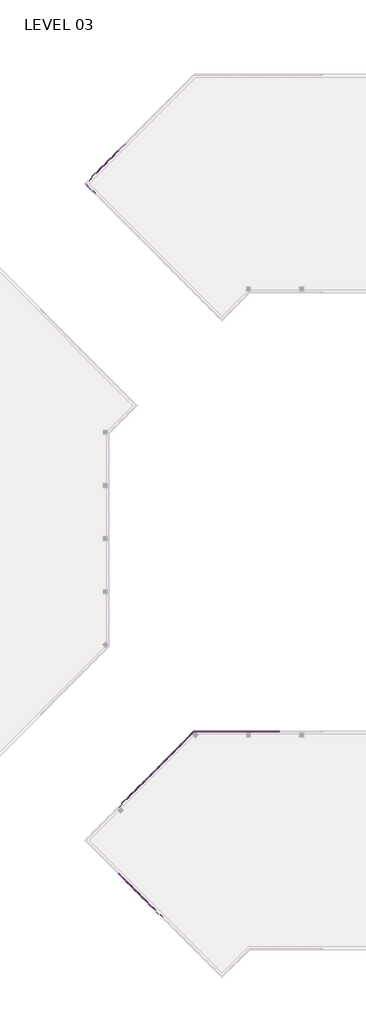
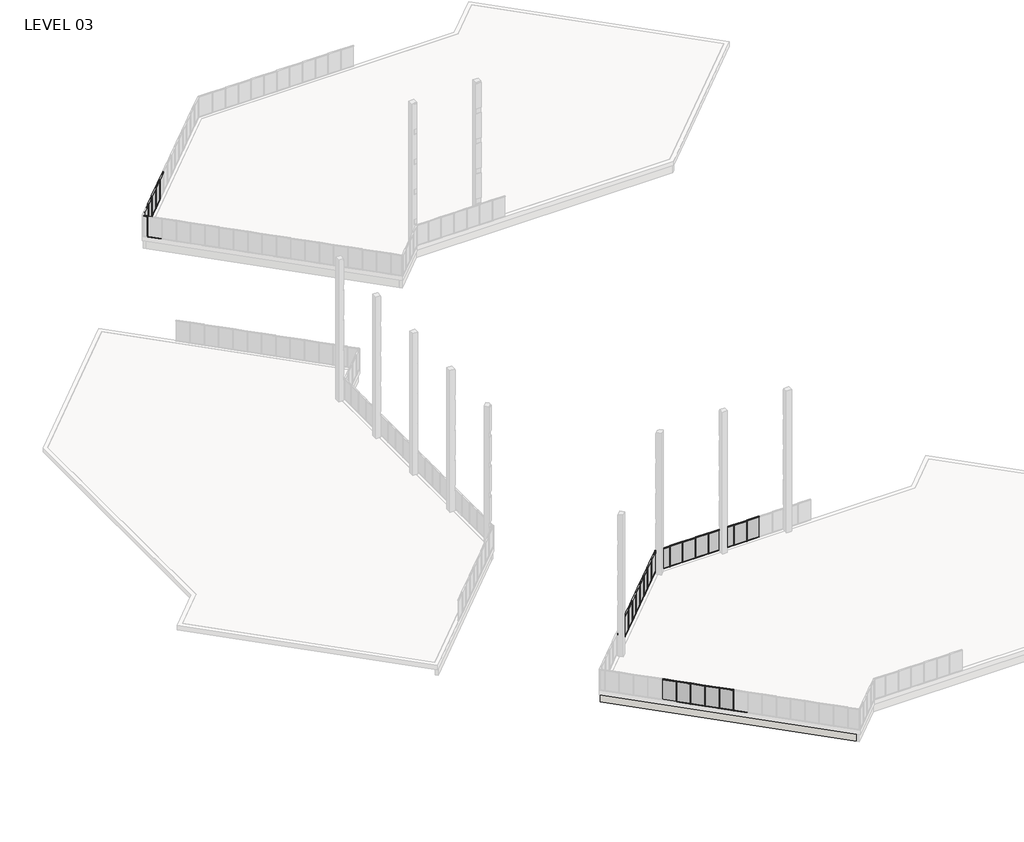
# One storey, part 7 of 18: 83 members, 27 plates, 2 walls.
"""IFC4 building model written with IfcOpenShell, lengths in millimetres."""

from ifc_helpers import new_model, si_unit, origin, place, context, project, spatial, faceted_brep, transform, mapped, element, save
from components import member_5247f267, member_e44af9ab, member_800970d4, member_1bd862b2, member_7ca0f77f, member_25b26a38, member_ed9c17d6, plate_67294edd, plate_048e4634, plate_aaac5d3d, plate_bbcbcabf, plate_e0fd5134, plate_db5d6751, plate_62af1d3c, plate_dca6a18a

model = new_model("IFC4")

# Units and contexts
model_context = context("Model", 3, world=origin())
ifc_project = project(units=[si_unit("LENGTHUNIT", "METRE", prefix="MILLI")], contexts=[model_context])

# Site, building, storey
site = spatial("IfcSite", under=ifc_project)
building = spatial("IfcBuilding", under=site)
storey = spatial("IfcBuildingStorey", under=building, Name="LEVEL 03", Elevation=8280.4)

# Members
placement = place(None, origin())
member_shape = member_5247f267(model_context)
element("IfcMember", 1, ObjectType="Rectangular Mullion : 2\" x 4.5\" rectangular", at=placement, inside=storey, context=model_context, shape_type="MappedRepresentation", body=[
    mapped(member_shape, transform((21469.35, 26080.1328721, 8280.4), x_axis=(0.0, 0.0, -1.0), y_axis=(0.0, -1.0, 0.0), z_axis=(-1.0, 0.0, 0.0))),
])
element("IfcMember", 2, ObjectType="Rectangular Mullion : 2\" x 4.5\" rectangular", at=placement, inside=storey, context=model_context, shape_type="MappedRepresentation", body=[
    mapped(member_shape, transform((8320.1332875, 23790.0222953, 8280.4), x_axis=(0.0, 0.0, -1.0), y_axis=(-0.7071067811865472, 0.7071067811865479, 0.0), z_axis=(0.7071067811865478, 0.7071067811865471, 0.0))),
])
element("IfcMember", 3, ObjectType="Rectangular Mullion : 2\" x 4.5\" rectangular", at=placement, inside=storey, context=model_context, shape_type="MappedRepresentation", body=[
    mapped(member_shape, transform((7242.502553, 22712.3915608, 8280.4), x_axis=(0.0, 0.0, -1.0), y_axis=(-0.7071067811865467, 0.7071067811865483, 0.0), z_axis=(0.7071067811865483, 0.7071067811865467, 0.0))),
])
element("IfcMember", 4, ObjectType="Rectangular Mullion : 2\" x 4.5\" rectangular", at=placement, inside=storey, context=model_context, shape_type="MappedRepresentation", body=[
    mapped(member_shape, transform((6164.8718185, 21634.7608262, 8280.4), x_axis=(0.0, 0.0, -1.0), y_axis=(-0.7071067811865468, 0.7071067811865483, 0.0), z_axis=(0.7071067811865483, 0.7071067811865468, 0.0))),
])
element("IfcMember", 5, ObjectType="Rectangular Mullion : 2\" x 4.5\" rectangular", at=placement, inside=storey, context=model_context, shape_type="MappedRepresentation", body=[
    mapped(member_shape, transform((4009.6251512, 19479.5141589, 8280.4), x_axis=(0.0, 0.0, -1.0), y_axis=(-0.707106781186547, 0.7071067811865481, 0.0), z_axis=(0.7071067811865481, 0.707106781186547, 0.0))),
])
element("IfcMember", 6, ObjectType="Rectangular Mullion : 2\" x 4.5\" rectangular", at=placement, inside=storey, context=model_context, shape_type="MappedRepresentation", body=[
    mapped(member_shape, transform((2932.0092184, 18401.8982261, 8280.4), x_axis=(0.0, 0.0, -1.0), y_axis=(-0.7071067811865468, 0.7071067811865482, 0.0), z_axis=(0.7071067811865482, 0.7071067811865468, 0.0))),
])
element("IfcMember", 7, ObjectType="Rectangular Mullion : 2\" x 4.5\" rectangular", at=placement, inside=storey, context=model_context, shape_type="MappedRepresentation", body=[
    mapped(member_shape, transform((1854.3932855, 17324.2822933, 8280.4), x_axis=(0.0, 0.0, -1.0), y_axis=(-0.7071067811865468, 0.7071067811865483, 0.0), z_axis=(0.7071067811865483, 0.7071067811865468, 0.0))),
])
element("IfcMember", 8, ObjectType="Rectangular Mullion : 2\" x 4.5\" rectangular", at=placement, inside=storey, context=model_context, shape_type="MappedRepresentation", body=[
    mapped(member_shape, transform((776.7773527, 16246.6663605, 8280.4), x_axis=(0.0, 0.0, -1.0), y_axis=(-0.7071067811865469, 0.7071067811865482, 0.0), z_axis=(0.7071067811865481, 0.7071067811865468, 0.0))),
])
element("IfcMember", 9, ObjectType="Rectangular Mullion : 2\" x 4.5\" rectangular", at=placement, inside=storey, context=model_context, shape_type="MappedRepresentation", body=[
    mapped(member_shape, transform((812.6774444, 4705.5492921, 8280.4), x_axis=(0.0, 0.0, -1.0), y_axis=(-0.707106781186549, -0.7071067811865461, 0.0), z_axis=(-0.7071067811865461, 0.707106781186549, 0.0))),
])
element("IfcMember", 10, ObjectType="Rectangular Mullion : 2\" x 4.5\" rectangular", at=placement, inside=storey, context=model_context, shape_type="MappedRepresentation", body=[
    mapped(member_shape, transform((1890.2724444, 3627.9542921, 8280.4), x_axis=(0.0, 0.0, -1.0), y_axis=(-0.7071067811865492, -0.7071067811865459, 0.0), z_axis=(-0.7071067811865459, 0.7071067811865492, 0.0))),
])
element("IfcMember", 11, ObjectType="Rectangular Mullion : 2\" x 4.5\" rectangular", at=placement, inside=storey, context=model_context, shape_type="MappedRepresentation", body=[
    mapped(member_shape, transform((2967.8674444, 2550.3592921, 8280.4), x_axis=(0.0, 0.0, -1.0), y_axis=(-0.707106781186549, -0.707106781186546, 0.0), z_axis=(-0.707106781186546, 0.707106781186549, 0.0))),
])
element("IfcMember", 12, ObjectType="Rectangular Mullion : 2\" x 4.5\" rectangular", at=placement, inside=storey, context=model_context, shape_type="MappedRepresentation", body=[
    mapped(member_shape, transform((19945.35, 26080.1328721, 8280.4), x_axis=(0.0, 0.0, -1.0), y_axis=(0.0, -1.0, 0.0), z_axis=(-1.0, 0.0, 0.0))),
])
element("IfcMember", 13, ObjectType="Rectangular Mullion : 2\" x 4.5\" rectangular", at=placement, inside=storey, context=model_context, shape_type="MappedRepresentation", body=[
    mapped(member_shape, transform((18421.35, 26080.1328721, 8280.4), x_axis=(0.0, 0.0, -1.0), y_axis=(0.0, -1.0, 0.0), z_axis=(-1.0, 0.0, 0.0))),
])
element("IfcMember", 14, ObjectType="Rectangular Mullion : 2\" x 4.5\" rectangular", at=placement, inside=storey, context=model_context, shape_type="MappedRepresentation", body=[
    mapped(member_shape, transform((16897.35, 26080.1328721, 8280.4), x_axis=(0.0, 0.0, -1.0), y_axis=(0.0, -1.0, 0.0), z_axis=(-1.0, 0.0, 0.0))),
])
element("IfcMember", 15, ObjectType="Rectangular Mullion : 2\" x 4.5\" rectangular", at=placement, inside=storey, context=model_context, shape_type="MappedRepresentation", body=[
    mapped(member_shape, transform((15373.35, 26080.1328721, 8280.4), x_axis=(0.0, 0.0, -1.0), y_axis=(0.0, -1.0, 0.0), z_axis=(-1.0, 0.0, 0.0))),
])
element("IfcMember", 16, ObjectType="Rectangular Mullion : 2\" x 4.5\" rectangular", at=placement, inside=storey, context=model_context, shape_type="MappedRepresentation", body=[
    mapped(member_shape, transform((13849.35, 26080.1328721, 8280.4), x_axis=(0.0, 0.0, -1.0), y_axis=(0.0, -1.0, 0.0), z_axis=(-1.0, 0.0, 0.0))),
])
element("IfcMember", 17, ObjectType="Rectangular Mullion : 2\" x 4.5\" rectangular", at=placement, inside=storey, context=model_context, shape_type="MappedRepresentation", body=[
    mapped(member_shape, transform((12325.35, 26080.1328721, 8280.4), x_axis=(0.0, 0.0, -1.0), y_axis=(0.0, -1.0, 0.0), z_axis=(-1.0, 0.0, 0.0))),
])
element("IfcMember", 18, ObjectType="Rectangular Mullion : 2\" x 4.5\" rectangular", at=placement, inside=storey, context=model_context, shape_type="MappedRepresentation", body=[
    mapped(member_shape, transform((9397.7640221, 24867.6530298, 8280.4), x_axis=(0.0, 0.0, -1.0), y_axis=(-0.7071067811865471, 0.7071067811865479, 0.0), z_axis=(0.7071067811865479, 0.7071067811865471, 0.0))),
])
element("IfcMember", 19, ObjectType="Rectangular Mullion : 2\" x 4.5\" rectangular", at=placement, inside=storey, context=model_context, shape_type="MappedRepresentation", body=[
    mapped(member_shape, transform((5087.2484848, 20557.1374926, 8280.4), x_axis=(0.0, 0.0, -1.0), y_axis=(-0.7071067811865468, 0.7071067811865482, 0.0), z_axis=(0.7071067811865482, 0.7071067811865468, 0.0))),
])
element("IfcMember", 20, ObjectType="Rectangular Mullion : 2\" x 4.5\" rectangular", at=placement, inside=storey, context=model_context, shape_type="MappedRepresentation", body=[
    mapped(member_shape, transform((-3533.9094563, 105983.7989843, 8280.4), x_axis=(0.0, 0.0, -1.0), y_axis=(-0.7071067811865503, 0.7071067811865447, 0.0), z_axis=(0.7071067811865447, 0.7071067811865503, 0.0))),
])
element("IfcMember", 21, ObjectType="Rectangular Mullion : 2\" x 4.5\" rectangular", at=placement, inside=storey, context=model_context, shape_type="MappedRepresentation", body=[
    mapped(member_shape, transform((-301.0172527, 109216.6911879, 8280.4), x_axis=(0.0, 0.0, -1.0), y_axis=(-0.7071067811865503, 0.7071067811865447, 0.0), z_axis=(0.7071067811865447, 0.7071067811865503, 0.0))),
])
element("IfcMember", 22, ObjectType="Rectangular Mullion : 2\" x 4.5\" rectangular", at=placement, inside=storey, context=model_context, shape_type="MappedRepresentation", body=[
    mapped(member_shape, transform((-1378.6479872, 108139.0604533, 8280.4), x_axis=(0.0, 0.0, -1.0), y_axis=(-0.7071067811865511, 0.707106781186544, 0.0), z_axis=(0.707106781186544, 0.7071067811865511, 0.0))),
])
element("IfcMember", 23, ObjectType="Rectangular Mullion : 2\" x 4.5\" rectangular", at=placement, inside=storey, context=model_context, shape_type="MappedRepresentation", body=[
    mapped(member_shape, transform((-2456.2787218, 107061.4297188, 8280.4), x_axis=(0.0, 0.0, -1.0), y_axis=(-0.7071067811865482, 0.7071067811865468, 0.0), z_axis=(0.7071067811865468, 0.7071067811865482, 0.0))),
])
element("IfcMember", 24, ObjectType="Rectangular Mullion : 2\" x 4.5\" rectangular", at=placement, inside=storey, context=model_context, shape_type="MappedRepresentation", body=[
    mapped(member_shape, transform((-4575.4404937, 104141.486663, 8280.4), x_axis=(0.0, 0.0, -1.0), y_axis=(-0.7071067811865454, -0.7071067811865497, 0.0), z_axis=(-0.7071067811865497, 0.7071067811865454, 0.0))),
])
element("IfcMember", 25, ObjectType="Rectangular Mullion : 2\" x 4.5\" rectangular", at=placement, inside=storey, context=model_context, shape_type="MappedRepresentation", body=[
    mapped(member_shape, transform((21418.55, 26080.1328721, 10871.2), x_axis=(0.0, 0.0, 1.0), y_axis=(0.0, -1.0, 0.0), z_axis=(1.0, 0.0, 0.0))),
])
element("IfcMember", 26, ObjectType="Rectangular Mullion : 2\" x 4.5\" rectangular", at=placement, inside=storey, context=model_context, shape_type="MappedRepresentation", body=[
    mapped(member_shape, transform((22942.55, 26080.1328721, 10871.2), x_axis=(0.0, 0.0, 1.0), y_axis=(0.0, -1.0, 0.0), z_axis=(1.0, 0.0, 0.0))),
])
element("IfcMember", 27, ObjectType="Rectangular Mullion : 2\" x 4.5\" rectangular", at=placement, inside=storey, context=model_context, shape_type="MappedRepresentation", body=[
    mapped(member_shape, transform((8356.054312, 23825.9433198, 10871.2), x_axis=(0.0, 0.0, 1.0), y_axis=(-0.7071067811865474, 0.7071067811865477, 0.0), z_axis=(-0.7071067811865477, -0.7071067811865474, 0.0))),
])
element("IfcMember", 28, ObjectType="Rectangular Mullion : 2\" x 4.5\" rectangular", at=placement, inside=storey, context=model_context, shape_type="MappedRepresentation", body=[
    mapped(member_shape, transform((7278.4235775, 22748.3125852, 10871.2), x_axis=(0.0, 0.0, 1.0), y_axis=(-0.7071067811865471, 0.7071067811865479, 0.0), z_axis=(-0.7071067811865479, -0.7071067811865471, 0.0))),
])
element("IfcMember", 29, ObjectType="Rectangular Mullion : 2\" x 4.5\" rectangular", at=placement, inside=storey, context=model_context, shape_type="MappedRepresentation", body=[
    mapped(member_shape, transform((6200.792843, 21670.6818507, 10871.2), x_axis=(0.0, 0.0, 1.0), y_axis=(-0.7071067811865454, 0.7071067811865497, 0.0), z_axis=(-0.7071067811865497, -0.7071067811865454, 0.0))),
])
element("IfcMember", 30, ObjectType="Rectangular Mullion : 2\" x 4.5\" rectangular", at=placement, inside=storey, context=model_context, shape_type="MappedRepresentation", body=[
    mapped(member_shape, transform((4045.5461756, 19515.4351834, 10871.2), x_axis=(0.0, 0.0, 1.0), y_axis=(-0.7071067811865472, 0.7071067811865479, 0.0), z_axis=(-0.7071067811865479, -0.7071067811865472, 0.0))),
])
element("IfcMember", 31, ObjectType="Rectangular Mullion : 2\" x 4.5\" rectangular", at=placement, inside=storey, context=model_context, shape_type="MappedRepresentation", body=[
    mapped(member_shape, transform((2967.9302428, 18437.8192506, 10871.2), x_axis=(0.0, 0.0, 1.0), y_axis=(-0.7071067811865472, 0.7071067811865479, 0.0), z_axis=(-0.7071067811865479, -0.7071067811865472, 0.0))),
])
element("IfcMember", 32, ObjectType="Rectangular Mullion : 2\" x 4.5\" rectangular", at=placement, inside=storey, context=model_context, shape_type="MappedRepresentation", body=[
    mapped(member_shape, transform((1890.31431, 17360.2033178, 10871.2), x_axis=(0.0, 0.0, 1.0), y_axis=(-0.7071067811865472, 0.7071067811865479, 0.0), z_axis=(-0.7071067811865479, -0.7071067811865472, 0.0))),
])
element("IfcMember", 33, ObjectType="Rectangular Mullion : 2\" x 4.5\" rectangular", at=placement, inside=storey, context=model_context, shape_type="MappedRepresentation", body=[
    mapped(member_shape, transform((812.6983772, 16282.587385, 10871.2), x_axis=(0.0, 0.0, 1.0), y_axis=(-0.7071067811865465, 0.7071067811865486, 0.0), z_axis=(-0.7071067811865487, -0.7071067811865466, 0.0))),
])
element("IfcMember", 34, ObjectType="Rectangular Mullion : 2\" x 4.5\" rectangular", at=placement, inside=storey, context=model_context, shape_type="MappedRepresentation", body=[
    mapped(member_shape, transform((776.7564199, 4741.4703165, 10871.2), x_axis=(0.0, 0.0, 1.0), y_axis=(-0.7071067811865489, -0.7071067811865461, 0.0), z_axis=(0.7071067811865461, -0.7071067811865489, 0.0))),
])
element("IfcMember", 35, ObjectType="Rectangular Mullion : 2\" x 4.5\" rectangular", at=placement, inside=storey, context=model_context, shape_type="MappedRepresentation", body=[
    mapped(member_shape, transform((1854.3514199, 3663.8753165, 10871.2), x_axis=(0.0, 0.0, 1.0), y_axis=(-0.7071067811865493, -0.7071067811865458, 0.0), z_axis=(0.7071067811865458, -0.7071067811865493, 0.0))),
])
element("IfcMember", 36, ObjectType="Rectangular Mullion : 2\" x 4.5\" rectangular", at=placement, inside=storey, context=model_context, shape_type="MappedRepresentation", body=[
    mapped(member_shape, transform((2931.9464199, 2586.2803165, 10871.2), x_axis=(0.0, 0.0, 1.0), y_axis=(-0.7071067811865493, -0.7071067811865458, 0.0), z_axis=(0.7071067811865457, -0.7071067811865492, 0.0))),
])
element("IfcMember", 37, ObjectType="Rectangular Mullion : 2\" x 4.5\" rectangular", at=placement, inside=storey, context=model_context, shape_type="MappedRepresentation", body=[
    mapped(member_shape, transform((4009.5414199, 1508.6853165, 10871.2), x_axis=(0.0, 0.0, 1.0), y_axis=(-0.7071067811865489, -0.7071067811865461, 0.0), z_axis=(0.7071067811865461, -0.7071067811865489, 0.0))),
])
element("IfcMember", 38, ObjectType="Rectangular Mullion : 2\" x 4.5\" rectangular", at=placement, inside=storey, context=model_context, shape_type="MappedRepresentation", body=[
    mapped(member_shape, transform((19894.55, 26080.1328721, 10871.2), x_axis=(0.0, 0.0, 1.0), y_axis=(0.0, -1.0, 0.0), z_axis=(1.0, 0.0, 0.0))),
])
element("IfcMember", 39, ObjectType="Rectangular Mullion : 2\" x 4.5\" rectangular", at=placement, inside=storey, context=model_context, shape_type="MappedRepresentation", body=[
    mapped(member_shape, transform((18370.55, 26080.1328721, 10871.2), x_axis=(0.0, 0.0, 1.0), y_axis=(0.0, -1.0, 0.0), z_axis=(1.0, 0.0, 0.0))),
])
element("IfcMember", 40, ObjectType="Rectangular Mullion : 2\" x 4.5\" rectangular", at=placement, inside=storey, context=model_context, shape_type="MappedRepresentation", body=[
    mapped(member_shape, transform((16846.55, 26080.1328721, 10871.2), x_axis=(0.0, 0.0, 1.0), y_axis=(0.0, -1.0, 0.0), z_axis=(1.0, 0.0, 0.0))),
])
element("IfcMember", 41, ObjectType="Rectangular Mullion : 2\" x 4.5\" rectangular", at=placement, inside=storey, context=model_context, shape_type="MappedRepresentation", body=[
    mapped(member_shape, transform((15322.55, 26080.1328721, 10871.2), x_axis=(0.0, 0.0, 1.0), y_axis=(0.0, -1.0, 0.0), z_axis=(1.0, 0.0, 0.0))),
])
element("IfcMember", 42, ObjectType="Rectangular Mullion : 2\" x 4.5\" rectangular", at=placement, inside=storey, context=model_context, shape_type="MappedRepresentation", body=[
    mapped(member_shape, transform((13798.55, 26080.1328721, 10871.2), x_axis=(0.0, 0.0, 1.0), y_axis=(0.0, -1.0, 0.0), z_axis=(1.0, 0.0, 0.0))),
])
element("IfcMember", 43, ObjectType="Rectangular Mullion : 2\" x 4.5\" rectangular", at=placement, inside=storey, context=model_context, shape_type="MappedRepresentation", body=[
    mapped(member_shape, transform((5123.1695093, 20593.058517, 10871.2), x_axis=(0.0, 0.0, 1.0), y_axis=(-0.7071067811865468, 0.7071067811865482, 0.0), z_axis=(-0.7071067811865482, -0.7071067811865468, 0.0))),
])
element("IfcMember", 44, ObjectType="Rectangular Mullion : 2\" x 4.5\" rectangular", at=placement, inside=storey, context=model_context, shape_type="MappedRepresentation", body=[
    mapped(member_shape, transform((-3497.9884318, 106019.7200088, 10871.2), x_axis=(0.0, 0.0, 1.0), y_axis=(-0.7071067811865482, 0.7071067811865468, 0.0), z_axis=(-0.7071067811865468, -0.7071067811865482, 0.0))),
])
element("IfcMember", 45, ObjectType="Rectangular Mullion : 2\" x 4.5\" rectangular", at=placement, inside=storey, context=model_context, shape_type="MappedRepresentation", body=[
    mapped(member_shape, transform((-265.0962282, 109252.6122123, 10871.2), x_axis=(0.0, 0.0, 1.0), y_axis=(-0.7071067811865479, 0.7071067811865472, 0.0), z_axis=(-0.7071067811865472, -0.7071067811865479, 0.0))),
])
element("IfcMember", 46, ObjectType="Rectangular Mullion : 2\" x 4.5\" rectangular", at=placement, inside=storey, context=model_context, shape_type="MappedRepresentation", body=[
    mapped(member_shape, transform((-1342.7269627, 108174.9814778, 10871.2), x_axis=(0.0, 0.0, 1.0), y_axis=(-0.7071067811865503, 0.7071067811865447, 0.0), z_axis=(-0.7071067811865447, -0.7071067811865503, 0.0))),
])
element("IfcMember", 47, ObjectType="Rectangular Mullion : 2\" x 4.5\" rectangular", at=placement, inside=storey, context=model_context, shape_type="MappedRepresentation", body=[
    mapped(member_shape, transform((-2420.3576973, 107097.3507433, 10871.2), x_axis=(0.0, 0.0, 1.0), y_axis=(-0.7071067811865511, 0.707106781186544, 0.0), z_axis=(-0.707106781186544, -0.7071067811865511, 0.0))),
])
member_2_shape = member_e44af9ab(model_context)
element("IfcMember", 48, ObjectType="Rectangular Mullion : 2\" x 4.5\" rectangular", at=placement, inside=storey, context=model_context, shape_type="MappedRepresentation", body=[
    mapped(member_2_shape, transform((21443.95, 26080.1328721, 8280.4), x_axis=(1.0, 0.0, 0.0), y_axis=(0.0, -1.0, 0.0), z_axis=(0.0, 0.0, -1.0))),
])
element("IfcMember", 49, ObjectType="Rectangular Mullion : 2\" x 4.5\" rectangular", at=placement, inside=storey, context=model_context, shape_type="MappedRepresentation", body=[
    mapped(member_2_shape, transform((8338.0937998, 23807.9828075, 8280.4), x_axis=(-0.7071067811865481, -0.7071067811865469, 0.0), y_axis=(-0.7071067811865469, 0.7071067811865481, 0.0), z_axis=(0.0, 0.0, -1.0))),
])
element("IfcMember", 50, ObjectType="Rectangular Mullion : 2\" x 4.5\" rectangular", at=placement, inside=storey, context=model_context, shape_type="MappedRepresentation", body=[
    mapped(member_2_shape, transform((7260.4630653, 22730.352073, 8280.4), x_axis=(-0.7071067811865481, -0.7071067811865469, 0.0), y_axis=(-0.7071067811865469, 0.7071067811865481, 0.0), z_axis=(0.0, 0.0, -1.0))),
])
element("IfcMember", 51, ObjectType="Rectangular Mullion : 2\" x 4.5\" rectangular", at=placement, inside=storey, context=model_context, shape_type="MappedRepresentation", body=[
    mapped(member_2_shape, transform((6182.8323307, 21652.7213385, 8280.4), x_axis=(-0.7071067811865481, -0.7071067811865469, 0.0), y_axis=(-0.7071067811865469, 0.7071067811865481, 0.0), z_axis=(0.0, 0.0, -1.0))),
])
element("IfcMember", 52, ObjectType="Rectangular Mullion : 2\" x 4.5\" rectangular", at=placement, inside=storey, context=model_context, shape_type="MappedRepresentation", body=[
    mapped(member_2_shape, transform((4027.5856634, 19497.4746711, 8280.4), x_axis=(-0.7071067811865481, -0.7071067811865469, 0.0), y_axis=(-0.7071067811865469, 0.7071067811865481, 0.0), z_axis=(0.0, 0.0, -1.0))),
])
element("IfcMember", 53, ObjectType="Rectangular Mullion : 2\" x 4.5\" rectangular", at=placement, inside=storey, context=model_context, shape_type="MappedRepresentation", body=[
    mapped(member_2_shape, transform((2949.9697306, 18419.8587383, 8280.4), x_axis=(-0.7071067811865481, -0.7071067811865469, 0.0), y_axis=(-0.7071067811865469, 0.7071067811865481, 0.0), z_axis=(0.0, 0.0, -1.0))),
])
element("IfcMember", 54, ObjectType="Rectangular Mullion : 2\" x 4.5\" rectangular", at=placement, inside=storey, context=model_context, shape_type="MappedRepresentation", body=[
    mapped(member_2_shape, transform((1872.3537978, 17342.2428055, 8280.4), x_axis=(-0.7071067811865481, -0.7071067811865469, 0.0), y_axis=(-0.7071067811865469, 0.7071067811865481, 0.0), z_axis=(0.0, 0.0, -1.0))),
])
element("IfcMember", 55, ObjectType="Rectangular Mullion : 2\" x 4.5\" rectangular", at=placement, inside=storey, context=model_context, shape_type="MappedRepresentation", body=[
    mapped(member_2_shape, transform((794.737865, 16264.6268727, 8280.4), x_axis=(-0.7071067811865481, -0.7071067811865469, 0.0), y_axis=(-0.7071067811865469, 0.7071067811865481, 0.0), z_axis=(0.0, 0.0, -1.0))),
])
element("IfcMember", 56, ObjectType="Rectangular Mullion : 2\" x 4.5\" rectangular", at=placement, inside=storey, context=model_context, shape_type="MappedRepresentation", body=[
    mapped(member_2_shape, transform((794.7169322, 4723.5098043, 8280.4), x_axis=(0.7071067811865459, -0.7071067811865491, 0.0), y_axis=(-0.7071067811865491, -0.7071067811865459, 0.0), z_axis=(0.0, 0.0, -1.0))),
])
element("IfcMember", 57, ObjectType="Rectangular Mullion : 2\" x 4.5\" rectangular", at=placement, inside=storey, context=model_context, shape_type="MappedRepresentation", body=[
    mapped(member_2_shape, transform((1872.3119322, 3645.9148043, 8280.4), x_axis=(0.7071067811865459, -0.7071067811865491, 0.0), y_axis=(-0.7071067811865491, -0.7071067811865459, 0.0), z_axis=(0.0, 0.0, -1.0))),
])
element("IfcMember", 58, ObjectType="Rectangular Mullion : 2\" x 4.5\" rectangular", at=placement, inside=storey, context=model_context, shape_type="MappedRepresentation", body=[
    mapped(member_2_shape, transform((2949.9069322, 2568.3198043, 8280.4), x_axis=(0.7071067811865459, -0.7071067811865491, 0.0), y_axis=(-0.7071067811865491, -0.7071067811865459, 0.0), z_axis=(0.0, 0.0, -1.0))),
])
element("IfcMember", 59, ObjectType="Rectangular Mullion : 2\" x 4.5\" rectangular", at=placement, inside=storey, context=model_context, shape_type="MappedRepresentation", body=[
    mapped(member_2_shape, transform((4027.5019322, 1490.7248043, 8280.4), x_axis=(0.7071067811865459, -0.7071067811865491, 0.0), y_axis=(-0.7071067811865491, -0.7071067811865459, 0.0), z_axis=(0.0, 0.0, -1.0))),
])
element("IfcMember", 60, ObjectType="Rectangular Mullion : 2\" x 4.5\" rectangular", at=placement, inside=storey, context=model_context, shape_type="MappedRepresentation", body=[
    mapped(member_2_shape, transform((19919.95, 26080.1328721, 8280.4), x_axis=(1.0, 0.0, 0.0), y_axis=(0.0, -1.0, 0.0), z_axis=(0.0, 0.0, -1.0))),
])
element("IfcMember", 61, ObjectType="Rectangular Mullion : 2\" x 4.5\" rectangular", at=placement, inside=storey, context=model_context, shape_type="MappedRepresentation", body=[
    mapped(member_2_shape, transform((18395.95, 26080.1328721, 8280.4), x_axis=(1.0, 0.0, 0.0), y_axis=(0.0, -1.0, 0.0), z_axis=(0.0, 0.0, -1.0))),
])
element("IfcMember", 62, ObjectType="Rectangular Mullion : 2\" x 4.5\" rectangular", at=placement, inside=storey, context=model_context, shape_type="MappedRepresentation", body=[
    mapped(member_2_shape, transform((16871.95, 26080.1328721, 8280.4), x_axis=(1.0, 0.0, 0.0), y_axis=(0.0, -1.0, 0.0), z_axis=(0.0, 0.0, -1.0))),
])
element("IfcMember", 63, ObjectType="Rectangular Mullion : 2\" x 4.5\" rectangular", at=placement, inside=storey, context=model_context, shape_type="MappedRepresentation", body=[
    mapped(member_2_shape, transform((15347.95, 26080.1328721, 8280.4), x_axis=(1.0, 0.0, 0.0), y_axis=(0.0, -1.0, 0.0), z_axis=(0.0, 0.0, -1.0))),
])
element("IfcMember", 64, ObjectType="Rectangular Mullion : 2\" x 4.5\" rectangular", at=placement, inside=storey, context=model_context, shape_type="MappedRepresentation", body=[
    mapped(member_2_shape, transform((13823.95, 26080.1328721, 8280.4), x_axis=(1.0, 0.0, 0.0), y_axis=(0.0, -1.0, 0.0), z_axis=(0.0, 0.0, -1.0))),
])
element("IfcMember", 65, ObjectType="Rectangular Mullion : 2\" x 4.5\" rectangular", at=placement, inside=storey, context=model_context, shape_type="MappedRepresentation", body=[
    mapped(member_2_shape, transform((12299.95, 26080.1328721, 8280.4), x_axis=(1.0, 0.0, 0.0), y_axis=(0.0, -1.0, 0.0), z_axis=(0.0, 0.0, -1.0))),
])
element("IfcMember", 66, ObjectType="Rectangular Mullion : 2\" x 4.5\" rectangular", at=placement, inside=storey, context=model_context, shape_type="MappedRepresentation", body=[
    mapped(member_2_shape, transform((9415.7245343, 24885.6135421, 8280.4), x_axis=(-0.7071067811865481, -0.7071067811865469, 0.0), y_axis=(-0.7071067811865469, 0.7071067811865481, 0.0), z_axis=(0.0, 0.0, -1.0))),
])
element("IfcMember", 67, ObjectType="Rectangular Mullion : 2\" x 4.5\" rectangular", at=placement, inside=storey, context=model_context, shape_type="MappedRepresentation", body=[
    mapped(member_2_shape, transform((5105.2089971, 20575.0980048, 8280.4), x_axis=(-0.7071067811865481, -0.7071067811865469, 0.0), y_axis=(-0.7071067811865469, 0.7071067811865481, 0.0), z_axis=(0.0, 0.0, -1.0))),
])
element("IfcMember", 68, ObjectType="Rectangular Mullion : 2\" x 4.5\" rectangular", at=placement, inside=storey, context=model_context, shape_type="MappedRepresentation", body=[
    mapped(member_2_shape, transform((5102.1211371, 416.1055994, 8280.4), x_axis=(0.7071067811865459, -0.7071067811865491, 0.0), y_axis=(-0.7071067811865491, -0.7071067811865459, 0.0), z_axis=(0.0, 0.0, -1.0))),
])
element("IfcMember", 69, ObjectType="Rectangular Mullion : 2\" x 4.5\" rectangular", at=placement, inside=storey, context=model_context, shape_type="MappedRepresentation", body=[
    mapped(member_2_shape, transform((-3515.948944, 106001.7594965, 8280.4), x_axis=(-0.7071067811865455, -0.7071067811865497, 0.0), y_axis=(-0.7071067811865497, 0.7071067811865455, 0.0), z_axis=(0.0, 0.0, -1.0))),
])
element("IfcMember", 70, ObjectType="Rectangular Mullion : 2\" x 4.5\" rectangular", at=placement, inside=storey, context=model_context, shape_type="MappedRepresentation", body=[
    mapped(member_2_shape, transform((-283.0567405, 109234.6517001, 8280.4), x_axis=(-0.7071067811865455, -0.7071067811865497, 0.0), y_axis=(-0.7071067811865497, 0.7071067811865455, 0.0), z_axis=(0.0, 0.0, -1.0))),
])
element("IfcMember", 71, ObjectType="Rectangular Mullion : 2\" x 4.5\" rectangular", at=placement, inside=storey, context=model_context, shape_type="MappedRepresentation", body=[
    mapped(member_2_shape, transform((-1360.687475, 108157.0209656, 8280.4), x_axis=(-0.7071067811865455, -0.7071067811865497, 0.0), y_axis=(-0.7071067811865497, 0.7071067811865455, 0.0), z_axis=(0.0, 0.0, -1.0))),
])
element("IfcMember", 72, ObjectType="Rectangular Mullion : 2\" x 4.5\" rectangular", at=placement, inside=storey, context=model_context, shape_type="MappedRepresentation", body=[
    mapped(member_2_shape, transform((-2438.3182095, 107079.390231, 8280.4), x_axis=(-0.7071067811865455, -0.7071067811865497, 0.0), y_axis=(-0.7071067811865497, 0.7071067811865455, 0.0), z_axis=(0.0, 0.0, -1.0))),
])
element("IfcMember", 73, ObjectType="Rectangular Mullion : 2\" x 4.5\" rectangular", at=placement, inside=storey, context=model_context, shape_type="MappedRepresentation", body=[
    mapped(member_2_shape, transform((-4593.4010059, 104159.4471752, 8280.4), x_axis=(0.7071067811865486, -0.7071067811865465, 0.0), y_axis=(-0.7071067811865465, -0.7071067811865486, 0.0), z_axis=(0.0, 0.0, -1.0))),
])
member_3_shape = member_800970d4(model_context)
element("IfcMember", 74, ObjectType="Rectangular Mullion : 2\" x 4.5\" rectangular", at=placement, inside=storey, context=model_context, shape_type="MappedRepresentation", body=[
    mapped(member_3_shape, transform((10610.2438644, 26080.1328721, 10871.2), x_axis=(-1.0, 0.0, 0.0), y_axis=(0.0, -1.0, 0.0), z_axis=(0.0, 0.0, 1.0))),
])
element("IfcMember", 75, ObjectType="Rectangular Mullion : 2\" x 4.5\" rectangular", at=placement, inside=storey, context=model_context, shape_type="MappedRepresentation", body=[
    mapped(member_3_shape, transform((10610.2438644, 26080.1328721, 10871.2), x_axis=(0.7071067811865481, 0.7071067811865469, 0.0), y_axis=(-0.7071067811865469, 0.7071067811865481, 0.0), z_axis=(0.0, 0.0, 1.0))),
])
member_4_shape = member_1bd862b2(model_context)
element("IfcMember", 76, ObjectType="Rectangular Mullion : 2\" x 4.5\" rectangular", at=placement, inside=storey, context=model_context, shape_type="MappedRepresentation", body=[
    mapped(member_4_shape, transform((12274.55, 26080.1328721, 10871.2), x_axis=(0.0, 0.0, 1.0), y_axis=(0.0, -1.0, 0.0), z_axis=(1.0, 0.0, 0.0))),
])
element("IfcMember", 77, ObjectType="Rectangular Mullion : 2\" x 4.5\" rectangular", at=placement, inside=storey, context=model_context, shape_type="MappedRepresentation", body=[
    mapped(member_4_shape, transform((10661.0438644, 26080.1328721, 8280.4), x_axis=(0.0, 0.0, -1.0), y_axis=(0.0, -1.0, 0.0), z_axis=(-1.0, 0.0, 0.0))),
])
member_5_shape = member_7ca0f77f(model_context)
element("IfcMember", 78, ObjectType="Rectangular Mullion : 2\" x 4.5\" rectangular", at=placement, inside=storey, context=model_context, shape_type="MappedRepresentation", body=[
    mapped(member_5_shape, transform((9433.6850466, 24903.5740543, 10871.2), x_axis=(0.0, 0.0, 1.0), y_axis=(-0.7071067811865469, 0.7071067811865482, 0.0), z_axis=(-0.7071067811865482, -0.7071067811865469, 0.0))),
])
element("IfcMember", 79, ObjectType="Rectangular Mullion : 2\" x 4.5\" rectangular", at=placement, inside=storey, context=model_context, shape_type="MappedRepresentation", body=[
    mapped(member_5_shape, transform((10574.3228399, 26044.2118476, 8280.4), x_axis=(0.0, 0.0, -1.0), y_axis=(-0.7071067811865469, 0.7071067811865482, 0.0), z_axis=(0.7071067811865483, 0.707106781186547, 0.0))),
])
member_6_shape = member_25b26a38(model_context)
element("IfcMember", 80, ObjectType="Rectangular Mullion : 2\" x 4.5\" rectangular", at=placement, inside=storey, context=model_context, shape_type="MappedRepresentation", body=[
    mapped(member_6_shape, transform((-4611.3615182, 104177.4076875, 10871.2), x_axis=(0.0, 0.0, 1.0), y_axis=(-0.707106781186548, -0.707106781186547, 0.0), z_axis=(0.707106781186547, -0.707106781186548, 0.0))),
])
member_7_shape = member_ed9c17d6(model_context)
element("IfcMember", 81, ObjectType="Rectangular Mullion : 2\" x 4.5\" rectangular", at=placement, inside=storey, context=model_context, shape_type="MappedRepresentation", body=[
    mapped(member_7_shape, transform((5084.1606248, 434.0661116, 10871.2), x_axis=(0.0, 0.0, 1.0), y_axis=(-0.7071067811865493, -0.7071067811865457, 0.0), z_axis=(0.7071067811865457, -0.7071067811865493, 0.0))),
])
element("IfcMember", 82, ObjectType="Rectangular Mullion : 2\" x 4.5\" rectangular", at=placement, inside=storey, context=model_context, shape_type="MappedRepresentation", body=[
    mapped(member_7_shape, transform((4045.4624444, 1472.7642921, 8280.4), x_axis=(0.0, 0.0, -1.0), y_axis=(-0.7071067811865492, -0.7071067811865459, 0.0), z_axis=(-0.7071067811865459, 0.7071067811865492, 0.0))),
])
element("IfcMember", 83, ObjectType="Rectangular Mullion : 2\" x 4.5\" rectangular", at=placement, inside=storey, context=model_context, shape_type="MappedRepresentation", body=[
    mapped(member_7_shape, transform((5120.0816493, 398.1450872, 8280.4), x_axis=(0.0, 0.0, -1.0), y_axis=(-0.7071067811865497, -0.7071067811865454, 0.0), z_axis=(-0.7071067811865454, 0.7071067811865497, 0.0))),
])

# Plates
plate_shape = plate_67294edd(model_context)
element("IfcPlate", 84, ObjectType="System Panel : 1/4\" Glass", at=placement, inside=storey, context=model_context, shape_type="MappedRepresentation", body=[
    mapped(plate_shape, transform((22205.95, 26080.1328721, 8331.2), x_axis=(1.0, 0.0, 0.0), y_axis=(0.0, 1.0, 0.0), z_axis=(0.0, 0.0, 1.0))),
])
element("IfcPlate", 85, ObjectType="System Panel : 1/4\" Glass", at=placement, inside=storey, context=model_context, shape_type="MappedRepresentation", body=[
    mapped(plate_shape, transform((7799.2784325, 23269.1674403, 8331.2), x_axis=(-0.7071067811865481, -0.7071067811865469, 0.0), y_axis=(0.7071067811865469, -0.7071067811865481, 0.0), z_axis=(0.0, 0.0, 1.0))),
])
element("IfcPlate", 86, ObjectType="System Panel : 1/4\" Glass", at=placement, inside=storey, context=model_context, shape_type="MappedRepresentation", body=[
    mapped(plate_shape, transform((6721.647698, 22191.5367057, 8331.2), x_axis=(-0.7071067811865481, -0.7071067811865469, 0.0), y_axis=(0.7071067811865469, -0.7071067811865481, 0.0), z_axis=(0.0, 0.0, 1.0))),
])
element("IfcPlate", 87, ObjectType="System Panel : 1/4\" Glass", at=placement, inside=storey, context=model_context, shape_type="MappedRepresentation", body=[
    mapped(plate_shape, transform((20681.95, 26080.1328721, 8331.2), x_axis=(1.0, 0.0, 0.0), y_axis=(0.0, 1.0, 0.0), z_axis=(0.0, 0.0, 1.0))),
])
element("IfcPlate", 88, ObjectType="System Panel : 1/4\" Glass", at=placement, inside=storey, context=model_context, shape_type="MappedRepresentation", body=[
    mapped(plate_shape, transform((19157.95, 26080.1328721, 8331.2), x_axis=(1.0, 0.0, 0.0), y_axis=(0.0, 1.0, 0.0), z_axis=(0.0, 0.0, 1.0))),
])
element("IfcPlate", 89, ObjectType="System Panel : 1/4\" Glass", at=placement, inside=storey, context=model_context, shape_type="MappedRepresentation", body=[
    mapped(plate_shape, transform((17633.95, 26080.1328721, 8331.2), x_axis=(1.0, 0.0, 0.0), y_axis=(0.0, 1.0, 0.0), z_axis=(0.0, 0.0, 1.0))),
])
element("IfcPlate", 90, ObjectType="System Panel : 1/4\" Glass", at=placement, inside=storey, context=model_context, shape_type="MappedRepresentation", body=[
    mapped(plate_shape, transform((16109.95, 26080.1328721, 8331.2), x_axis=(1.0, 0.0, 0.0), y_axis=(0.0, 1.0, 0.0), z_axis=(0.0, 0.0, 1.0))),
])
element("IfcPlate", 91, ObjectType="System Panel : 1/4\" Glass", at=placement, inside=storey, context=model_context, shape_type="MappedRepresentation", body=[
    mapped(plate_shape, transform((14585.95, 26080.1328721, 8331.2), x_axis=(1.0, 0.0, 0.0), y_axis=(0.0, 1.0, 0.0), z_axis=(0.0, 0.0, 1.0))),
])
element("IfcPlate", 92, ObjectType="System Panel : 1/4\" Glass", at=placement, inside=storey, context=model_context, shape_type="MappedRepresentation", body=[
    mapped(plate_shape, transform((13061.95, 26080.1328721, 8331.2), x_axis=(1.0, 0.0, 0.0), y_axis=(0.0, 1.0, 0.0), z_axis=(0.0, 0.0, 1.0))),
])
element("IfcPlate", 93, ObjectType="System Panel : 1/4\" Glass", at=placement, inside=storey, context=model_context, shape_type="MappedRepresentation", body=[
    mapped(plate_shape, transform((8876.909167, 24346.7981748, 8331.2), x_axis=(-0.7071067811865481, -0.7071067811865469, 0.0), y_axis=(0.7071067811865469, -0.7071067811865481, 0.0), z_axis=(0.0, 0.0, 1.0))),
])
element("IfcPlate", 94, ObjectType="System Panel : 1/4\" Glass", at=placement, inside=storey, context=model_context, shape_type="MappedRepresentation", body=[
    mapped(plate_shape, transform((-4054.7643113, 105462.9441292, 8331.2), x_axis=(-0.7071067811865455, -0.7071067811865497, 0.0), y_axis=(0.7071067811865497, -0.7071067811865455, 0.0), z_axis=(0.0, 0.0, 1.0))),
])
element("IfcPlate", 95, ObjectType="System Panel : 1/4\" Glass", at=placement, inside=storey, context=model_context, shape_type="MappedRepresentation", body=[
    mapped(plate_shape, transform((-821.8721077, 108695.8363328, 8331.2), x_axis=(-0.7071067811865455, -0.7071067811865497, 0.0), y_axis=(0.7071067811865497, -0.7071067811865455, 0.0), z_axis=(0.0, 0.0, 1.0))),
])
element("IfcPlate", 96, ObjectType="System Panel : 1/4\" Glass", at=placement, inside=storey, context=model_context, shape_type="MappedRepresentation", body=[
    mapped(plate_shape, transform((-1899.5028422, 107618.2055983, 8331.2), x_axis=(-0.7071067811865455, -0.7071067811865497, 0.0), y_axis=(0.7071067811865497, -0.7071067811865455, 0.0), z_axis=(0.0, 0.0, 1.0))),
])
element("IfcPlate", 97, ObjectType="System Panel : 1/4\" Glass", at=placement, inside=storey, context=model_context, shape_type="MappedRepresentation", body=[
    mapped(plate_shape, transform((-2977.1335768, 106540.5748638, 8331.2), x_axis=(-0.7071067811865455, -0.7071067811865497, 0.0), y_axis=(0.7071067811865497, -0.7071067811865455, 0.0), z_axis=(0.0, 0.0, 1.0))),
])
plate_2_shape = plate_048e4634(model_context)
element("IfcPlate", 98, ObjectType="System Panel : 1/4\" Glass", at=placement, inside=storey, context=model_context, shape_type="MappedRepresentation", body=[
    mapped(plate_2_shape, transform((1333.5144322, 4184.7123043, 8331.2), x_axis=(0.7071067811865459, -0.7071067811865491, 0.0), y_axis=(0.7071067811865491, 0.7071067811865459, 0.0), z_axis=(0.0, 0.0, 1.0))),
])
element("IfcPlate", 99, ObjectType="System Panel : 1/4\" Glass", at=placement, inside=storey, context=model_context, shape_type="MappedRepresentation", body=[
    mapped(plate_2_shape, transform((2411.1094322, 3107.1173043, 8331.2), x_axis=(0.7071067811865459, -0.7071067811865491, 0.0), y_axis=(0.7071067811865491, 0.7071067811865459, 0.0), z_axis=(0.0, 0.0, 1.0))),
])
element("IfcPlate", 100, ObjectType="System Panel : 1/4\" Glass", at=placement, inside=storey, context=model_context, shape_type="MappedRepresentation", body=[
    mapped(plate_2_shape, transform((3488.7044322, 2029.5223043, 8331.2), x_axis=(0.7071067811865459, -0.7071067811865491, 0.0), y_axis=(0.7071067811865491, 0.7071067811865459, 0.0), z_axis=(0.0, 0.0, 1.0))),
])
plate_3_shape = plate_aaac5d3d(model_context)
element("IfcPlate", 101, ObjectType="System Panel : 1/4\" Glass", at=placement, inside=storey, context=model_context, shape_type="MappedRepresentation", body=[
    mapped(plate_3_shape, transform((3488.777697, 18958.6667047, 8331.2), x_axis=(-0.7071067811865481, -0.7071067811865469, 0.0), y_axis=(0.7071067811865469, -0.7071067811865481, 0.0), z_axis=(0.0, 0.0, 1.0))),
])
element("IfcPlate", 102, ObjectType="System Panel : 1/4\" Glass", at=placement, inside=storey, context=model_context, shape_type="MappedRepresentation", body=[
    mapped(plate_3_shape, transform((2411.1617642, 17881.0507719, 8331.2), x_axis=(-0.7071067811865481, -0.7071067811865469, 0.0), y_axis=(0.7071067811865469, -0.7071067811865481, 0.0), z_axis=(0.0, 0.0, 1.0))),
])
element("IfcPlate", 103, ObjectType="System Panel : 1/4\" Glass", at=placement, inside=storey, context=model_context, shape_type="MappedRepresentation", body=[
    mapped(plate_3_shape, transform((1333.5458314, 16803.4348391, 8331.2), x_axis=(-0.7071067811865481, -0.7071067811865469, 0.0), y_axis=(0.7071067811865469, -0.7071067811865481, 0.0), z_axis=(0.0, 0.0, 1.0))),
])
plate_4_shape = plate_bbcbcabf(model_context)
element("IfcPlate", 104, ObjectType="System Panel : 1/4\" Glass", at=placement, inside=storey, context=model_context, shape_type="MappedRepresentation", body=[
    mapped(plate_4_shape, transform((11467.7969322, 26080.1328721, 8331.2), x_axis=(1.0, 0.0, 0.0), y_axis=(0.0, 1.0, 0.0), z_axis=(0.0, 0.0, 1.0))),
])
plate_5_shape = plate_e0fd5134(model_context)
element("IfcPlate", 105, ObjectType="System Panel : 1/4\" Glass", at=placement, inside=storey, context=model_context, shape_type="MappedRepresentation", body=[
    mapped(plate_5_shape, transform((5644.0206639, 21113.9096716, 8331.2), x_axis=(-0.7071067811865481, -0.7071067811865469, 0.0), y_axis=(0.7071067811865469, -0.7071067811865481, 0.0), z_axis=(0.0, 0.0, 1.0))),
])
element("IfcPlate", 106, ObjectType="System Panel : 1/4\" Glass", at=placement, inside=storey, context=model_context, shape_type="MappedRepresentation", body=[
    mapped(plate_5_shape, transform((255.9261982, 15725.8152059, 8331.2), x_axis=(-0.7071067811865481, -0.7071067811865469, 0.0), y_axis=(0.7071067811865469, -0.7071067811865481, 0.0), z_axis=(0.0, 0.0, 1.0))),
])
element("IfcPlate", 107, ObjectType="System Panel : 1/4\" Glass", at=placement, inside=storey, context=model_context, shape_type="MappedRepresentation", body=[
    mapped(plate_5_shape, transform((4566.3973302, 20036.286338, 8331.2), x_axis=(-0.7071067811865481, -0.7071067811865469, 0.0), y_axis=(0.7071067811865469, -0.7071067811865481, 0.0), z_axis=(0.0, 0.0, 1.0))),
])
plate_6_shape = plate_db5d6751(model_context)
element("IfcPlate", 108, ObjectType="System Panel : 1/4\" Glass", at=placement, inside=storey, context=model_context, shape_type="MappedRepresentation", body=[
    mapped(plate_6_shape, transform((10004.0039432, 25473.892951, 8331.2), x_axis=(-0.7071067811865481, -0.7071067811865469, 0.0), y_axis=(0.7071067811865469, -0.7071067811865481, 0.0), z_axis=(0.0, 0.0, 1.0))),
])
plate_7_shape = plate_62af1d3c(model_context)
element("IfcPlate", 109, ObjectType="System Panel : 1/4\" Glass", at=placement, inside=storey, context=model_context, shape_type="MappedRepresentation", body=[
    mapped(plate_7_shape, transform((255.9104986, 5262.3162379, 8331.2), x_axis=(0.7071067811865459, -0.7071067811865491, 0.0), y_axis=(0.7071067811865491, 0.7071067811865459, 0.0), z_axis=(0.0, 0.0, 1.0))),
])
plate_8_shape = plate_dca6a18a(model_context)
element("IfcPlate", 110, ObjectType="System Panel : 1/4\" Glass", at=placement, inside=storey, context=model_context, shape_type="MappedRepresentation", body=[
    mapped(plate_8_shape, transform((4564.8115346, 953.4152019, 8331.2), x_axis=(0.7071067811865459, -0.7071067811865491, 0.0), y_axis=(0.7071067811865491, 0.7071067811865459, 0.0), z_axis=(0.0, 0.0, 1.0))),
])

# Walls
element("IfcWall", 111, ObjectType="01-CONCRETE-12", at=placement, inside=storey, context=model_context, shape_type="Brep", body=[
    faceted_brep([(14585.95, -8573.8091769, 6731.0), (11015.0710245, -5002.9302013, 6731.0), (10405.4710245, -4393.3302013, 6731.0), (5656.8539755, 355.2868476, 6731.0), (5047.2539755, 964.8868476, 6731.0), (268.8789755, 5743.2618476, 6731.0), (-340.7210245, 6352.8618476, 6731.0), (-4481.917049, 10494.0578721, 6731.0), (-4697.4431959, 10709.584019, 6731.0), (-4697.4431959, 10709.584019, 7721.6), (-4481.917049, 10494.0578721, 7721.6), (-340.7210245, 6352.8618476, 7721.6), (268.8789755, 5743.2618476, 7721.6), (5047.2539755, 964.8868476, 7721.6), (5656.8539755, 355.2868476, 7721.6), (10405.4710245, -4393.3302013, 7721.6), (11015.0710245, -5002.9302013, 7721.6), (14585.95, -8573.8091769, 7721.6), (14370.4238531, -8789.3353238, 6731.0), (14370.4238531, -8789.3353238, 7721.6), (-4912.9693428, 10494.0578721, 7721.6), (-4912.9693428, 10494.0578721, 6731.0)], [[[0, 1, 2, 3, 4, 5, 6, 7, 8, 9, 10, 11, 12, 13, 14, 15, 16, 17]], [[18, 19, 20, 21]], [[8, 7, 6, 5, 4, 3, 2, 1, 0, 18, 21]], [[17, 16, 15, 14, 13, 12, 11, 10, 9, 20, 19]], [[0, 17, 19, 18]], [[9, 8, 21, 20]]]),
])
element("IfcWall", 112, ObjectType="01-CONCRETE-12", at=placement, inside=storey, context=model_context, shape_type="Brep", body=[
    faceted_brep([(-4481.917049, 10494.0578721, 6731.0), (5047.2539755, 20023.2288966, 6731.0), (5656.8539755, 20632.8288966, 6731.0), (10405.4710245, 25381.4459456, 6731.0), (10754.907951, 25730.8828721, 6731.0), (10754.907951, 25730.8828721, 7721.6), (10405.4710245, 25381.4459456, 7721.6), (5656.8539755, 20632.8288966, 7721.6), (5047.2539755, 20023.2288966, 7721.6), (-4481.917049, 10494.0578721, 7721.6), (-4697.4431959, 10709.584019, 6731.0), (-4697.4431959, 10709.584019, 7721.6), (10323.8556572, 25730.8828721, 7721.6), (10323.8556572, 25730.8828721, 6731.0)], [[[0, 1, 2, 3, 4, 5, 6, 7, 8, 9]], [[10, 11, 12, 13]], [[4, 3, 2, 1, 0, 10, 13]], [[9, 8, 7, 6, 5, 12, 11]], [[0, 9, 11, 10]], [[5, 4, 13, 12]]]),
])

save(model, "model.ifc")
